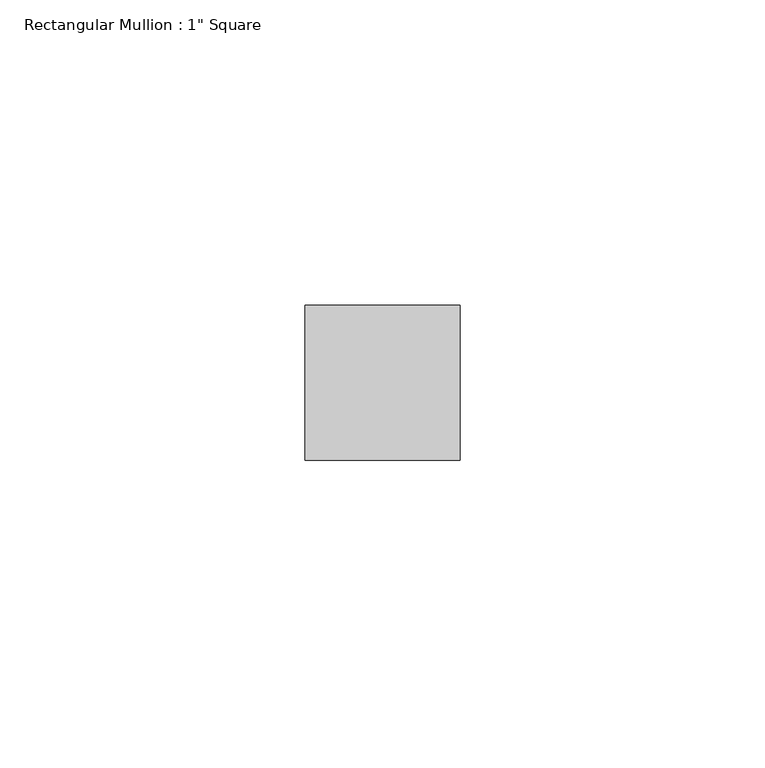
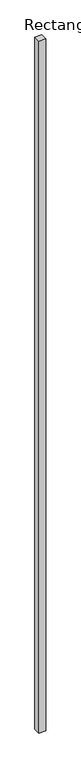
"""IFC4 building model written with IfcOpenShell, lengths in millimetres: member geometry."""

from ifc_helpers import new_model, si_unit, frame, origin, place, context, project, spatial, polyline, outline, extrude, source, transform, mapped, element, save


def member_733b6783(model_context):
    return source(origin(), model_context, "Body", "SweptSolid", [
        extrude(outline(polyline([(12.7, 12.7), (12.7, -12.7), (-12.7, -12.7), (-12.7, 12.7), (12.7, 12.7)])), frame((0.0, 0.0, -2705.3997833), z_axis=(0.0, 0.0, 1.0), x_axis=(1.0, 0.0, 0.0)), (0.0, 0.0, 1.0), 2705.3997833),
    ])


if __name__ == "__main__":
    model = new_model("IFC4")
    model_context = context("Model", 3, world=origin())
    ifc_project = project(units=[si_unit("LENGTHUNIT", "METRE", prefix="MILLI")], contexts=[model_context])
    site = spatial("IfcSite", under=ifc_project)
    building = spatial("IfcBuilding", under=site)
    placement = place(None, origin())
    member_shape = member_733b6783(model_context)
    element("IfcMember", 1, ObjectType="Rectangular Mullion : 1\" Square", at=placement, inside=building, context=model_context, shape_type="MappedRepresentation", body=[
        mapped(member_shape, transform((0.0, 0.0, 0.0), x_axis=(1.0, 0.0, 0.0), y_axis=(0.0, 1.0, 0.0), z_axis=(0.0, 0.0, 1.0))),
    ])
    save(model, "model.ifc")
